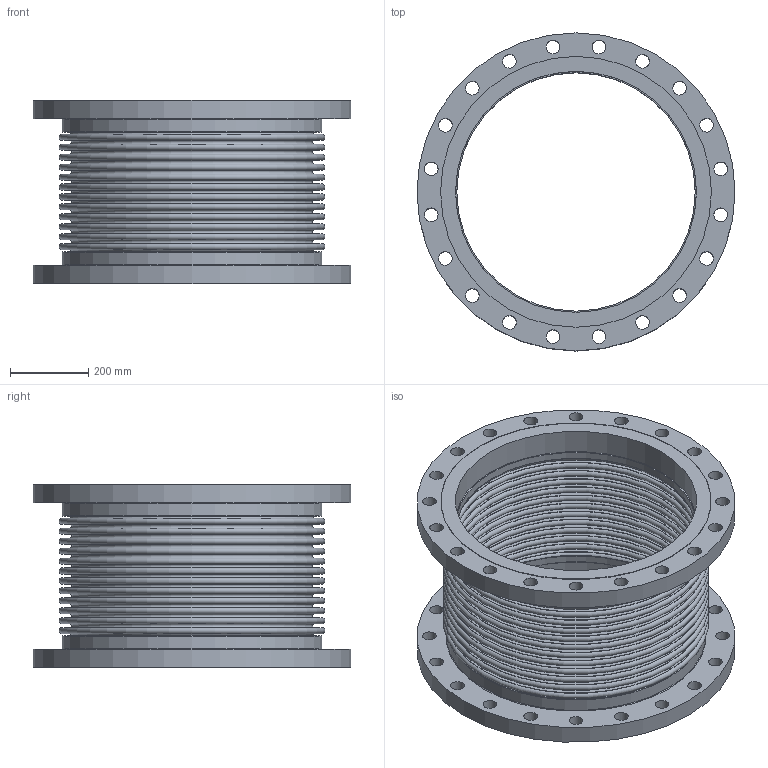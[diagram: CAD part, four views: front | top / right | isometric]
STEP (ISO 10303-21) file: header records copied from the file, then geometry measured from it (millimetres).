
FILE_DESCRIPTION(/* description */ ('EXPANSION JOINT,SINGLE, FLANGED ENDS,24 INCH','CAx-IF Rec.Pracs.---Representation and Presentation of Product Manufacturing Information (PMI)---4.0---2014-10-13'),/* implementation_level */ '2;1');
FILE_NAME(/* name */ 'US-24-12-300L-FLANGED ENDS.stp',/* time_stamp */ '2026-07-31T17:44:48-05:00',/* author */ ('Guadalupe'),/* organization */ (''),/* preprocessor_version */ 'ST-DEVELOPER v20.1',/* originating_system */ 'Autodesk Inventor 2026',/* authorisation */ '');
FILE_SCHEMA (('AP242_MANAGED_MODEL_BASED_3D_ENGINEERING_MIM_LF { 1 0 10303 442 2 1 4 }'));
Length unit declared in the file: inch
Products named in the file (3): 24-300L; 24-300L-02; 24-300L-01
Assembly tree (3 placements, depth 2):
  24-300L
    24-300L-02  x2
    24-300L-01
Bounding box: 812.8 x 812.8 x 469.9 mm (x, y, z)
Volume: 28170925.3 mm3; surface area: 5694922.9 mm2
Topology: 5 solids, 5 shells, 168 faces, 318 edges, 212 vertices
Faces by surface type: plane 62, torus 54, cylinder 52
Full cylindrical faces by diameter (mm): 34.925 x40, 609.6 x2, 615.696 x2, 615.95 x2, 663.702 x2, 692.15 x2, 812.8 x2
Entity records: 3762 total; most frequent: DIRECTION 766, CARTESIAN_POINT 561, ORIENTED_EDGE 480, AXIS2_PLACEMENT_3D 369, EDGE_CURVE 240, EDGE_LOOP 236, CIRCLE 212, VERTEX_POINT 160
